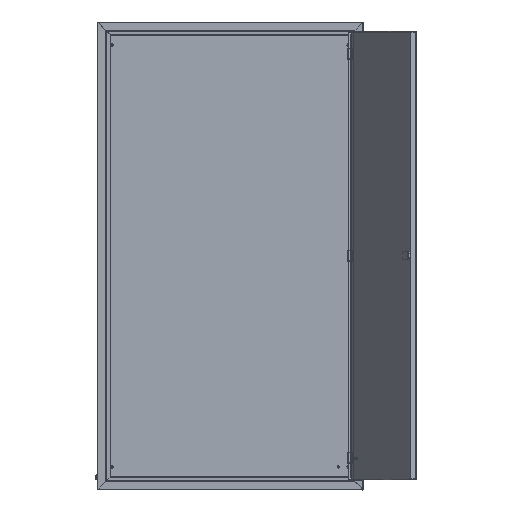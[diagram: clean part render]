
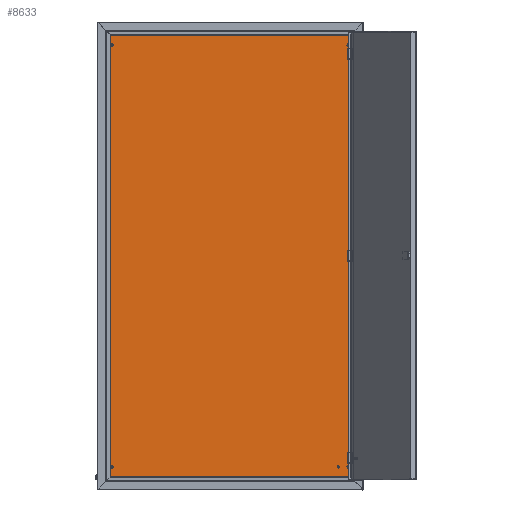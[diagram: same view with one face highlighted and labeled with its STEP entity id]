
A CAD part, top view. The second image highlights one B-rep face of the part: STEP entity #8633.
In plain terms, the highlighted planar face has unit normal (0, 0, 1).
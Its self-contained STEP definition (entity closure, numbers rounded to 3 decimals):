
#68 = CARTESIAN_POINT ( 'NONE',  ( 680., 30., 0. ) ) ;
#117 = VERTEX_POINT ( 'NONE', #9826 ) ;
#273 = DIRECTION ( 'NONE',  ( 0., 0., 1. ) ) ;
#366 = VERTEX_POINT ( 'NONE', #11880 ) ;
#381 = VERTEX_POINT ( 'NONE', #15408 ) ;
#422 = AXIS2_PLACEMENT_3D ( 'NONE', #14027, #6676, #7848 ) ;
#874 = CARTESIAN_POINT ( 'NONE',  ( 1.937, 1248.093, 0. ) ) ;
#1173 = VERTEX_POINT ( 'NONE', #9281 ) ;
#1428 = EDGE_CURVE ( 'NONE', #6140, #381, #14846, .T. ) ;
#1480 = EDGE_CURVE ( 'NONE', #2248, #4126, #7191, .T. ) ;
#1671 = VECTOR ( 'NONE', #5795, 1000. ) ;
#1831 = CARTESIAN_POINT ( 'NONE',  ( 684., 1220., 0. ) ) ;
#2052 = DIRECTION ( 'NONE',  ( -1., 0., 0. ) ) ;
#2248 = VERTEX_POINT ( 'NONE', #13203 ) ;
#2441 = EDGE_LOOP ( 'NONE', ( #3780, #15019, #5931, #12044 ) ) ;
#2497 = CARTESIAN_POINT ( 'NONE',  ( 10., 1220., 0. ) ) ;
#2725 = CARTESIAN_POINT ( 'NONE',  ( 680., 1220., 0. ) ) ;
#3198 = AXIS2_PLACEMENT_3D ( 'NONE', #68, #9983, #5504 ) ;
#3292 = DIRECTION ( 'NONE',  ( 0., 0., 1. ) ) ;
#3313 = ORIENTED_EDGE ( 'NONE', *, *, #8374, .F. ) ;
#3455 = ORIENTED_EDGE ( 'NONE', *, *, #9297, .F. ) ;
#3563 = DIRECTION ( 'NONE',  ( 0., 0., 1. ) ) ;
#3780 = ORIENTED_EDGE ( 'NONE', *, *, #8163, .T. ) ;
#3810 = DIRECTION ( 'NONE',  ( 0., 1., 0. ) ) ;
#3847 = DIRECTION ( 'NONE',  ( 0., 0., 1. ) ) ;
#3858 = DIRECTION ( 'NONE',  ( 1., 0., 0. ) ) ;
#3887 = AXIS2_PLACEMENT_3D ( 'NONE', #5060, #273, #6318 ) ;
#3955 = FACE_BOUND ( 'NONE', #8398, .T. ) ;
#3962 = VERTEX_POINT ( 'NONE', #4578 ) ;
#4126 = VERTEX_POINT ( 'NONE', #5569 ) ;
#4373 = AXIS2_PLACEMENT_3D ( 'NONE', #8095, #9098, #15321 ) ;
#4533 = ORIENTED_EDGE ( 'NONE', *, *, #15210, .F. ) ;
#4578 = CARTESIAN_POINT ( 'NONE',  ( 1.937, 1248.063, 0. ) ) ;
#4778 = VERTEX_POINT ( 'NONE', #6167 ) ;
#4923 = DIRECTION ( 'NONE',  ( 1., 0., 0. ) ) ;
#5060 = CARTESIAN_POINT ( 'NONE',  ( 680., 1220., 0. ) ) ;
#5082 = CARTESIAN_POINT ( 'NONE',  ( 680., 30., 0. ) ) ;
#5170 = EDGE_CURVE ( 'NONE', #4778, #117, #5224, .T. ) ;
#5224 = LINE ( 'NONE', #5403, #11391 ) ;
#5339 = ORIENTED_EDGE ( 'NONE', *, *, #14149, .F. ) ;
#5380 = PLANE ( 'NONE',  #4373 ) ;
#5403 = CARTESIAN_POINT ( 'NONE',  ( 1.907, 1.937, 0. ) ) ;
#5504 = DIRECTION ( 'NONE',  ( 1., 0., 0. ) ) ;
#5569 = CARTESIAN_POINT ( 'NONE',  ( 6., 1220., 0. ) ) ;
#5705 = EDGE_LOOP ( 'NONE', ( #3455, #5339 ) ) ;
#5730 = EDGE_CURVE ( 'NONE', #6248, #10714, #15790, .T. ) ;
#5765 = CARTESIAN_POINT ( 'NONE',  ( 684., 30., 0. ) ) ;
#5795 = DIRECTION ( 'NONE',  ( 0., -1., 0. ) ) ;
#5916 = AXIS2_PLACEMENT_3D ( 'NONE', #7104, #3563, #9451 ) ;
#5931 = ORIENTED_EDGE ( 'NONE', *, *, #13581, .T. ) ;
#6127 = AXIS2_PLACEMENT_3D ( 'NONE', #2497, #3847, #4923 ) ;
#6140 = VERTEX_POINT ( 'NONE', #5765 ) ;
#6167 = CARTESIAN_POINT ( 'NONE',  ( 1.937, 1.937, 0. ) ) ;
#6248 = VERTEX_POINT ( 'NONE', #9504 ) ;
#6312 = ORIENTED_EDGE ( 'NONE', *, *, #1480, .F. ) ;
#6318 = DIRECTION ( 'NONE',  ( -1., 0., 0. ) ) ;
#6438 = CARTESIAN_POINT ( 'NONE',  ( 10., 1220., 0. ) ) ;
#6510 = VERTEX_POINT ( 'NONE', #10093 ) ;
#6664 = EDGE_LOOP ( 'NONE', ( #6312, #3313 ) ) ;
#6676 = DIRECTION ( 'NONE',  ( 0., 0., 1. ) ) ;
#6718 = DIRECTION ( 'NONE',  ( 1., 0., 0. ) ) ;
#6841 = FACE_BOUND ( 'NONE', #14785, .T. ) ;
#7104 = CARTESIAN_POINT ( 'NONE',  ( 650., 30., 0. ) ) ;
#7191 = CIRCLE ( 'NONE', #10665, 4. ) ;
#7346 = ORIENTED_EDGE ( 'NONE', *, *, #5730, .F. ) ;
#7502 = DIRECTION ( 'NONE',  ( -1., 0., 0. ) ) ;
#7620 = CARTESIAN_POINT ( 'NONE',  ( 688.063, 1.907, 0. ) ) ;
#7681 = AXIS2_PLACEMENT_3D ( 'NONE', #5082, #13685, #8912 ) ;
#7848 = DIRECTION ( 'NONE',  ( -1., 0., 0. ) ) ;
#8095 = CARTESIAN_POINT ( 'NONE',  ( 0., 0., 0. ) ) ;
#8163 = EDGE_CURVE ( 'NONE', #3962, #4778, #13952, .T. ) ;
#8176 = CIRCLE ( 'NONE', #5916, 3. ) ;
#8374 = EDGE_CURVE ( 'NONE', #4126, #2248, #13175, .T. ) ;
#8398 = EDGE_LOOP ( 'NONE', ( #11094, #14769 ) ) ;
#8432 = EDGE_CURVE ( 'NONE', #1173, #12828, #11264, .T. ) ;
#8601 = CARTESIAN_POINT ( 'NONE',  ( 6., 30., 0. ) ) ;
#8633 = ADVANCED_FACE ( 'NONE', ( #10473, #13754, #3955, #6841, #11815, #15078 ), #5380, .F. ) ;
#8912 = DIRECTION ( 'NONE',  ( 1., 0., 0. ) ) ;
#8965 = DIRECTION ( 'NONE',  ( 0., 0., 1. ) ) ;
#9098 = DIRECTION ( 'NONE',  ( 0., 0., -1. ) ) ;
#9100 = CARTESIAN_POINT ( 'NONE',  ( 688.093, 1248.063, 0. ) ) ;
#9105 = VERTEX_POINT ( 'NONE', #15241 ) ;
#9178 = ORIENTED_EDGE ( 'NONE', *, *, #10299, .F. ) ;
#9281 = CARTESIAN_POINT ( 'NONE',  ( 14., 30., 0. ) ) ;
#9297 = EDGE_CURVE ( 'NONE', #366, #6510, #8176, .T. ) ;
#9451 = DIRECTION ( 'NONE',  ( -1., 0., 0. ) ) ;
#9504 = CARTESIAN_POINT ( 'NONE',  ( 676., 1220., 0. ) ) ;
#9725 = VECTOR ( 'NONE', #3810, 1000. ) ;
#9780 = CIRCLE ( 'NONE', #3198, 4. ) ;
#9826 = CARTESIAN_POINT ( 'NONE',  ( 688.063, 1.937, 0. ) ) ;
#9926 = AXIS2_PLACEMENT_3D ( 'NONE', #10756, #3292, #2052 ) ;
#9983 = DIRECTION ( 'NONE',  ( 0., 0., 1. ) ) ;
#10031 = DIRECTION ( 'NONE',  ( 0., 0., 1. ) ) ;
#10043 = DIRECTION ( 'NONE',  ( 0., 0., 1. ) ) ;
#10093 = CARTESIAN_POINT ( 'NONE',  ( 653., 30., 0. ) ) ;
#10299 = EDGE_CURVE ( 'NONE', #12828, #1173, #15616, .T. ) ;
#10473 = FACE_BOUND ( 'NONE', #5705, .T. ) ;
#10665 = AXIS2_PLACEMENT_3D ( 'NONE', #6438, #10043, #3858 ) ;
#10714 = VERTEX_POINT ( 'NONE', #1831 ) ;
#10756 = CARTESIAN_POINT ( 'NONE',  ( 10., 30., 0. ) ) ;
#11094 = ORIENTED_EDGE ( 'NONE', *, *, #1428, .F. ) ;
#11130 = EDGE_CURVE ( 'NONE', #381, #6140, #9780, .T. ) ;
#11264 = CIRCLE ( 'NONE', #14841, 4. ) ;
#11391 = VECTOR ( 'NONE', #6718, 1000. ) ;
#11815 = FACE_BOUND ( 'NONE', #6664, .T. ) ;
#11880 = CARTESIAN_POINT ( 'NONE',  ( 647., 30., 0. ) ) ;
#12044 = ORIENTED_EDGE ( 'NONE', *, *, #12989, .T. ) ;
#12799 = VECTOR ( 'NONE', #15378, 1000. ) ;
#12828 = VERTEX_POINT ( 'NONE', #8601 ) ;
#12984 = LINE ( 'NONE', #7620, #9725 ) ;
#12989 = EDGE_CURVE ( 'NONE', #9105, #3962, #13583, .T. ) ;
#13123 = CIRCLE ( 'NONE', #3887, 4. ) ;
#13175 = CIRCLE ( 'NONE', #6127, 4. ) ;
#13203 = CARTESIAN_POINT ( 'NONE',  ( 14., 1220., 0. ) ) ;
#13581 = EDGE_CURVE ( 'NONE', #117, #9105, #12984, .T. ) ;
#13583 = LINE ( 'NONE', #9100, #12799 ) ;
#13592 = ORIENTED_EDGE ( 'NONE', *, *, #8432, .F. ) ;
#13685 = DIRECTION ( 'NONE',  ( 0., 0., 1. ) ) ;
#13754 = FACE_BOUND ( 'NONE', #14301, .T. ) ;
#13952 = LINE ( 'NONE', #874, #1671 ) ;
#14027 = CARTESIAN_POINT ( 'NONE',  ( 650., 30., 0. ) ) ;
#14149 = EDGE_CURVE ( 'NONE', #6510, #366, #14317, .T. ) ;
#14301 = EDGE_LOOP ( 'NONE', ( #13592, #9178 ) ) ;
#14317 = CIRCLE ( 'NONE', #422, 3. ) ;
#14429 = AXIS2_PLACEMENT_3D ( 'NONE', #2725, #8965, #14968 ) ;
#14769 = ORIENTED_EDGE ( 'NONE', *, *, #11130, .F. ) ;
#14785 = EDGE_LOOP ( 'NONE', ( #4533, #7346 ) ) ;
#14836 = CARTESIAN_POINT ( 'NONE',  ( 10., 30., 0. ) ) ;
#14841 = AXIS2_PLACEMENT_3D ( 'NONE', #14836, #10031, #7502 ) ;
#14846 = CIRCLE ( 'NONE', #7681, 4. ) ;
#14968 = DIRECTION ( 'NONE',  ( -1., 0., 0. ) ) ;
#15019 = ORIENTED_EDGE ( 'NONE', *, *, #5170, .T. ) ;
#15078 = FACE_OUTER_BOUND ( 'NONE', #2441, .T. ) ;
#15210 = EDGE_CURVE ( 'NONE', #10714, #6248, #13123, .T. ) ;
#15241 = CARTESIAN_POINT ( 'NONE',  ( 688.063, 1248.063, 0. ) ) ;
#15321 = DIRECTION ( 'NONE',  ( -1., 0., 0. ) ) ;
#15378 = DIRECTION ( 'NONE',  ( -1., 0., 0. ) ) ;
#15408 = CARTESIAN_POINT ( 'NONE',  ( 676., 30., 0. ) ) ;
#15616 = CIRCLE ( 'NONE', #9926, 4. ) ;
#15790 = CIRCLE ( 'NONE', #14429, 4. ) ;
